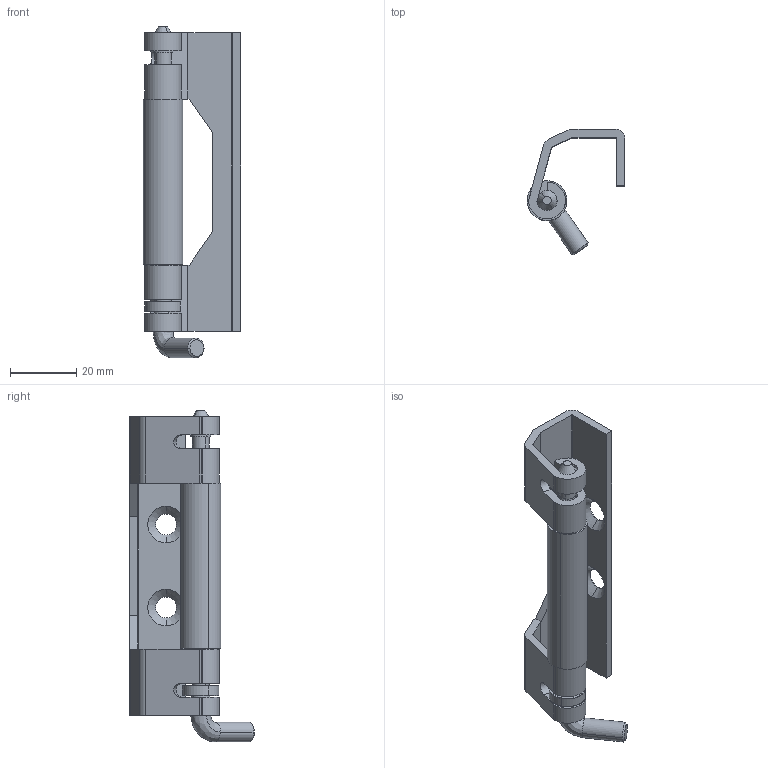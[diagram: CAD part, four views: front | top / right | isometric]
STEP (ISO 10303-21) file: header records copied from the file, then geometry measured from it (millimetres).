
FILE_DESCRIPTION (( 'STEP AP214' ), '1' );
FILE_NAME ('3.ST12-1B.001.STEP', '2016-09-02T10:59:45', ( '' ), ( '' ), 'SwSTEP 2.0', 'SolidWorks 2015', '' );
FILE_SCHEMA (( 'AUTOMOTIVE_DESIGN' ));
Length unit declared in the file: millimetre
Products named in the file (5): 3.ST12-1.001 tulejka; 3.ST12B.001.02_A; 3.ST12B.001.03_A; 3.ST12-1B.001.01_A; 3.ST12-1B.001
Assembly tree (4 placements, depth 2):
  3.ST12-1B.001
    3.ST12-1B.001.01_A
    3.ST12B.001.03_A
    3.ST12B.001.02_A
    3.ST12-1.001 tulejka
Bounding box: 29.44 x 37.63 x 100 mm (x, y, z)
Volume: 17051.3 mm3; surface area: 14595.5 mm2
Topology: 4 solids, 4 shells, 125 faces, 323 edges, 207 vertices
Faces by surface type: cylinder 60, plane 35, bspline 18, cone 12
Entity records: 4460 total; most frequent: CARTESIAN_POINT 1183, DIRECTION 684, ORIENTED_EDGE 646, EDGE_CURVE 323, AXIS2_PLACEMENT_3D 266, VERTEX_POINT 207, VECTOR 152, CIRCLE 152
